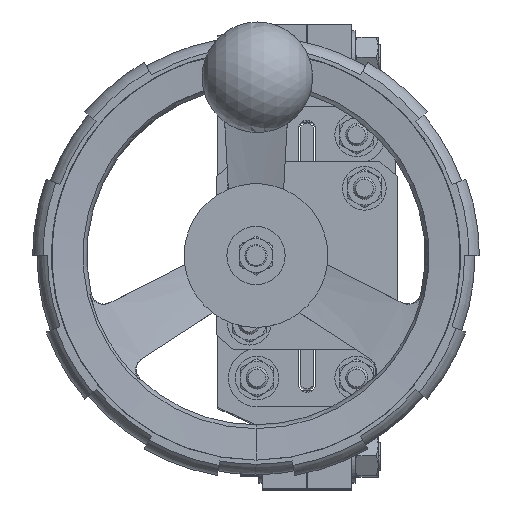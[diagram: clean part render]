
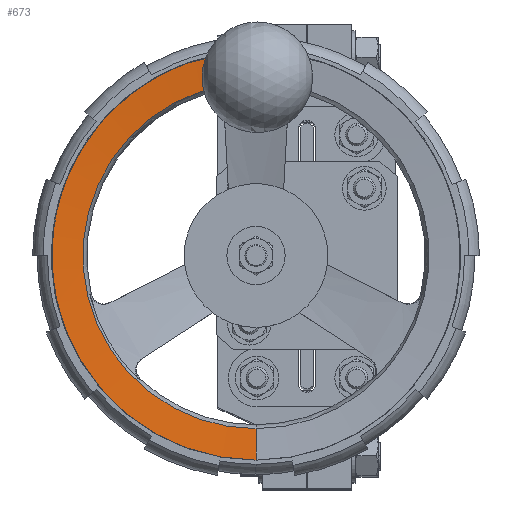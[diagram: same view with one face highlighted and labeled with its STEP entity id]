
A CAD part, top view. The second image highlights one B-rep face of the part: STEP entity #673.
In plain terms, the highlighted conical face has half-angle 85 degrees and reference radius 92.5 mm.
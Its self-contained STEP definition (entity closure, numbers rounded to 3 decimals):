
#673=ADVANCED_FACE('',(#3462),#3463,.F.);
#3462=FACE_OUTER_BOUND('',#8279,.T.);
#3463=CONICAL_SURFACE('',#8280,92.5,1.484);
#8279=EDGE_LOOP('',(#17531,#17532,#17533,#17534,#17535));
#8280=AXIS2_PLACEMENT_3D('',#17536,#17537,#17538);
#17531=ORIENTED_EDGE('',*,*,#33086,.F.);
#17532=ORIENTED_EDGE('',*,*,#31230,.T.);
#17533=ORIENTED_EDGE('',*,*,#33087,.T.);
#17534=ORIENTED_EDGE('',*,*,#33088,.T.);
#17535=ORIENTED_EDGE('',*,*,#33089,.F.);
#17536=CARTESIAN_POINT('',(-23.,0.,385.744));
#17537=DIRECTION('',(0.,0.,1.));
#17538=DIRECTION('',(0.,-1.,0.));
#31230=EDGE_CURVE('',#36978,#36976,#36979,.T.);
#33086=EDGE_CURVE('',#36978,#40609,#40610,.T.);
#33087=EDGE_CURVE('',#36976,#40611,#40612,.T.);
#33088=EDGE_CURVE('',#40611,#40613,#40614,.T.);
#33089=EDGE_CURVE('',#40609,#40613,#40615,.T.);
#36976=VERTEX_POINT('',#45858);
#36978=VERTEX_POINT('',#45863);
#36979=CIRCLE('',#45864,78.28);
#40609=VERTEX_POINT('',#51830);
#40610=LINE('',#51831,#51832);
#40611=VERTEX_POINT('',#51833);
#40612=B_SPLINE_CURVE_WITH_KNOTS('',3,(#51834,#51835,#51836,#51837),.UNSPECIFIED.,.F.,.F.,(4,4),(0.001,0.003),.UNSPECIFIED.);
#40613=VERTEX_POINT('',#51838);
#40614=B_SPLINE_CURVE_WITH_KNOTS('',3,(#51839,#51840,#51841,#51842),.UNSPECIFIED.,.F.,.F.,(4,4),(0.021,0.033),.UNSPECIFIED.);
#40615=CIRCLE('',#51843,92.5);
#45858=CARTESIAN_POINT('',(-35.21,77.322,384.5));
#45863=CARTESIAN_POINT('',(-23.,-78.28,384.5));
#45864=AXIS2_PLACEMENT_3D('',#63500,#63501,#63502);
#51830=CARTESIAN_POINT('',(-23.,-92.5,385.744));
#51831=CARTESIAN_POINT('',(-23.,-92.5,385.744));
#51832=VECTOR('',#66910,1.);
#51833=CARTESIAN_POINT('',(-35.5,80.001,384.735));
#51834=CARTESIAN_POINT('',(-35.21,77.322,384.5));
#51835=CARTESIAN_POINT('',(-35.404,78.208,384.579));
#51836=CARTESIAN_POINT('',(-35.5,79.1,384.658));
#51837=CARTESIAN_POINT('',(-35.5,80.001,384.735));
#51838=CARTESIAN_POINT('',(-35.5,91.652,385.744));
#51839=CARTESIAN_POINT('',(-35.5,80.001,384.735));
#51840=CARTESIAN_POINT('',(-35.5,83.885,385.071));
#51841=CARTESIAN_POINT('',(-35.5,87.768,385.407));
#51842=CARTESIAN_POINT('',(-35.5,91.652,385.744));
#51843=AXIS2_PLACEMENT_3D('',#66911,#66912,#66913);
#63500=CARTESIAN_POINT('',(-23.,0.,384.5));
#63501=DIRECTION('',(0.,0.,-1.));
#63502=DIRECTION('',(0.,1.,0.));
#66910=DIRECTION('',(0.,-0.996,0.087));
#66911=CARTESIAN_POINT('',(-23.,0.,385.744));
#66912=DIRECTION('',(0.,0.,-1.));
#66913=DIRECTION('',(0.,1.,0.));
